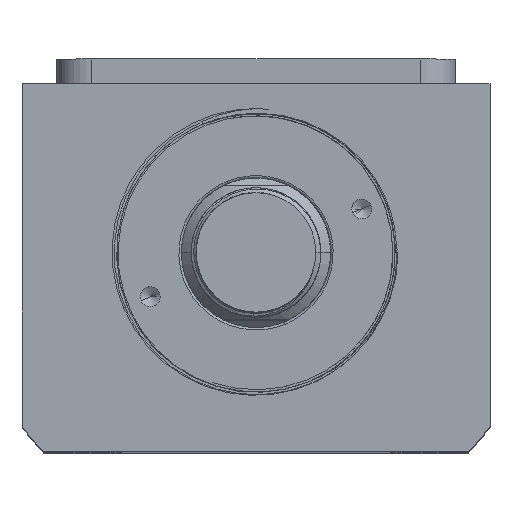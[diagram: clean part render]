
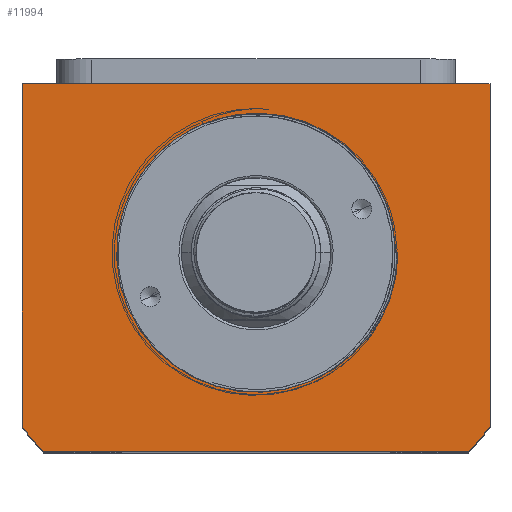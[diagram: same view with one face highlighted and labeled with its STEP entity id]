
A CAD part, top view. The second image highlights one B-rep face of the part: STEP entity #11994.
In plain terms, the highlighted planar face has unit normal (0, 0, 1).
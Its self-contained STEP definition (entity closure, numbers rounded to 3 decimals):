
#123 = CARTESIAN_POINT ( 'NONE',  ( 10.232, -26.064, 60. ) ) ;
#287 = DIRECTION ( 'NONE',  ( 0., 0., 1. ) ) ;
#660 = DIRECTION ( 'NONE',  ( -1., 0., 0. ) ) ;
#731 = CARTESIAN_POINT ( 'NONE',  ( 28., 0., 60. ) ) ;
#777 = EDGE_CURVE ( 'NONE', #11845, #11216, #11981, .T. ) ;
#1147 = ORIENTED_EDGE ( 'NONE', *, *, #14048, .F. ) ;
#1357 = ORIENTED_EDGE ( 'NONE', *, *, #13471, .T. ) ;
#1569 = DIRECTION ( 'NONE',  ( 1., 0., 0. ) ) ;
#1833 = VECTOR ( 'NONE', #4393, 1000. ) ;
#1990 = DIRECTION ( 'NONE',  ( 1., 0., 0. ) ) ;
#2219 = CIRCLE ( 'NONE', #12294, 58.5 ) ;
#2386 = AXIS2_PLACEMENT_3D ( 'NONE', #16555, #7686, #9284 ) ;
#2474 = CARTESIAN_POINT ( 'NONE',  ( 24.178, -14.712, 60. ) ) ;
#2493 = EDGE_CURVE ( 'NONE', #11162, #3084, #16900, .T. ) ;
#2685 = CARTESIAN_POINT ( 'NONE',  ( 11.542, -25.544, 60. ) ) ;
#2826 = ORIENTED_EDGE ( 'NONE', *, *, #2493, .T. ) ;
#2868 = EDGE_LOOP ( 'NONE', ( #1147, #9378, #12041 ) ) ;
#3084 = VERTEX_POINT ( 'NONE', #16233 ) ;
#3218 = DIRECTION ( 'NONE',  ( 0., 0., 1. ) ) ;
#3641 = CARTESIAN_POINT ( 'NONE',  ( 47., 34., 60. ) ) ;
#3761 = DIRECTION ( 'NONE',  ( 0., 1., 0. ) ) ;
#4136 = CARTESIAN_POINT ( 'NONE',  ( 12.831, -24.945, 60. ) ) ;
#4208 = CARTESIAN_POINT ( 'NONE',  ( 20.224, -19.631, 60. ) ) ;
#4279 = VERTEX_POINT ( 'NONE', #731 ) ;
#4393 = DIRECTION ( 'NONE',  ( 1., 0., 0. ) ) ;
#4417 = EDGE_CURVE ( 'NONE', #13926, #4279, #5196, .T. ) ;
#4691 = CARTESIAN_POINT ( 'NONE',  ( 0., 0., 60. ) ) ;
#5196 = CIRCLE ( 'NONE', #9619, 28. ) ;
#5589 = VECTOR ( 'NONE', #3761, 1000. ) ;
#5592 = CARTESIAN_POINT ( 'NONE',  ( 19.714, -20.129, 60. ) ) ;
#6837 = CARTESIAN_POINT ( 'NONE',  ( 28.485, -0.71, 60. ) ) ;
#6971 = CARTESIAN_POINT ( 'NONE',  ( 24.898, -13.504, 60. ) ) ;
#7038 = CARTESIAN_POINT ( 'NONE',  ( 26.163, -10.961, 60. ) ) ;
#7111 = CARTESIAN_POINT ( 'NONE',  ( 28.449, -1.419, 60. ) ) ;
#7180 = DIRECTION ( 'NONE',  ( 0., 0., -1. ) ) ;
#7181 = VECTOR ( 'NONE', #660, 1000. ) ;
#7196 = LINE ( 'NONE', #9100, #15416 ) ;
#7686 = DIRECTION ( 'NONE',  ( 0., 0., 1. ) ) ;
#8254 = ORIENTED_EDGE ( 'NONE', *, *, #16934, .T. ) ;
#8431 = LINE ( 'NONE', #10670, #13636 ) ;
#8562 = CARTESIAN_POINT ( 'NONE',  ( 18.129, -21.529, 60. ) ) ;
#8626 = CARTESIAN_POINT ( 'NONE',  ( 18.667, -21.077, 60. ) ) ;
#8661 = CARTESIAN_POINT ( 'NONE',  ( 28.495, 0., 60. ) ) ;
#8871 = FACE_BOUND ( 'NONE', #2868, .T. ) ;
#8911 = DIRECTION ( 'NONE',  ( 1., 0., 0. ) ) ;
#9100 = CARTESIAN_POINT ( 'NONE',  ( -47., 34., 60. ) ) ;
#9103 = CARTESIAN_POINT ( 'NONE',  ( -47., -34.832, 60. ) ) ;
#9284 = DIRECTION ( 'NONE',  ( 1., 0., 0. ) ) ;
#9378 = ORIENTED_EDGE ( 'NONE', *, *, #12487, .T. ) ;
#9406 = CARTESIAN_POINT ( 'NONE',  ( 0., 0., 60. ) ) ;
#9619 = AXIS2_PLACEMENT_3D ( 'NONE', #19203, #7180, #8911 ) ;
#9831 = CARTESIAN_POINT ( 'NONE',  ( 47., -34.832, 60. ) ) ;
#9847 = ORIENTED_EDGE ( 'NONE', *, *, #12781, .T. ) ;
#10015 = CARTESIAN_POINT ( 'NONE',  ( 16.467, -22.819, 60. ) ) ;
#10214 = CARTESIAN_POINT ( 'NONE',  ( 10.89, -25.816, 60. ) ) ;
#10589 = VERTEX_POINT ( 'NONE', #9103 ) ;
#10670 = CARTESIAN_POINT ( 'NONE',  ( -47., -34.832, 60. ) ) ;
#10722 = PLANE ( 'NONE',  #19285 ) ;
#11162 = VERTEX_POINT ( 'NONE', #9831 ) ;
#11178 = CARTESIAN_POINT ( 'NONE',  ( -47., 34., 60. ) ) ;
#11216 = VERTEX_POINT ( 'NONE', #19156 ) ;
#11340 = ORIENTED_EDGE ( 'NONE', *, *, #777, .T. ) ;
#11717 = CARTESIAN_POINT ( 'NONE',  ( 22.571, -17.007, 60. ) ) ;
#11845 = VERTEX_POINT ( 'NONE', #18203 ) ;
#11981 = LINE ( 'NONE', #13615, #1833 ) ;
#11994 = ADVANCED_FACE ( 'NONE', ( #8871, #17526 ), #10722, .T. ) ;
#12041 = ORIENTED_EDGE ( 'NONE', *, *, #4417, .T. ) ;
#12294 = AXIS2_PLACEMENT_3D ( 'NONE', #4691, #3218, #1569 ) ;
#12487 = EDGE_CURVE ( 'NONE', #14337, #13926, #13327, .T. ) ;
#12781 = EDGE_CURVE ( 'NONE', #11216, #11162, #2219, .T. ) ;
#12910 = ORIENTED_EDGE ( 'NONE', *, *, #18684, .T. ) ;
#12960 = CARTESIAN_POINT ( 'NONE',  ( 28.323, -2.832, 60. ) ) ;
#13113 = CIRCLE ( 'NONE', #2386, 58.5 ) ;
#13327 = B_SPLINE_CURVE_WITH_KNOTS ( 'NONE', 3,
 ( #14210, #6837, #7111, #12960, #15964, #16101, #17612, #17689, #7038, #6971, #2474, #11717, #19202, #4208, #5592, #8626, #8562, #10015, #17484, #19141, #4136, #2685, #10214, #18998 ),
 .UNSPECIFIED., .F., .F.,
 ( 4, 2, 2, 2, 2, 2, 2, 2, 2, 2, 2, 4 ),
 ( 0., 0.002, 0.004, 0.009, 0.013, 0.017, 0.021, 0.023, 0.026, 0.03, 0.032, 0.034 ),
 .UNSPECIFIED. ) ;
#13471 = EDGE_CURVE ( 'NONE', #3084, #16279, #7196, .T. ) ;
#13615 = CARTESIAN_POINT ( 'NONE',  ( 42.688, -40., 60. ) ) ;
#13636 = VECTOR ( 'NONE', #14851, 1000. ) ;
#13926 = VERTEX_POINT ( 'NONE', #123 ) ;
#14048 = EDGE_CURVE ( 'NONE', #14337, #4279, #14698, .T. ) ;
#14210 = CARTESIAN_POINT ( 'NONE',  ( 28.495, 0., 60. ) ) ;
#14337 = VERTEX_POINT ( 'NONE', #8661 ) ;
#14698 = LINE ( 'NONE', #16837, #7181 ) ;
#14851 = DIRECTION ( 'NONE',  ( 0., -1., 0. ) ) ;
#15018 = EDGE_LOOP ( 'NONE', ( #1357, #8254, #12910, #11340, #9847, #2826 ) ) ;
#15416 = VECTOR ( 'NONE', #16349, 1000. ) ;
#15964 = CARTESIAN_POINT ( 'NONE',  ( 28.233, -3.538, 60. ) ) ;
#16101 = CARTESIAN_POINT ( 'NONE',  ( 27.887, -5.628, 60. ) ) ;
#16233 = CARTESIAN_POINT ( 'NONE',  ( 47., 34., 60. ) ) ;
#16279 = VERTEX_POINT ( 'NONE', #11178 ) ;
#16349 = DIRECTION ( 'NONE',  ( -1., 0., 0. ) ) ;
#16555 = CARTESIAN_POINT ( 'NONE',  ( 0., 0., 60. ) ) ;
#16837 = CARTESIAN_POINT ( 'NONE',  ( 0., 0., 60. ) ) ;
#16900 = LINE ( 'NONE', #3641, #5589 ) ;
#16934 = EDGE_CURVE ( 'NONE', #16279, #10589, #8431, .T. ) ;
#17484 = CARTESIAN_POINT ( 'NONE',  ( 15.3, -23.593, 60. ) ) ;
#17526 = FACE_OUTER_BOUND ( 'NONE', #15018, .T. ) ;
#17612 = CARTESIAN_POINT ( 'NONE',  ( 27.555, -6.99, 60. ) ) ;
#17689 = CARTESIAN_POINT ( 'NONE',  ( 26.694, -9.657, 60. ) ) ;
#18203 = CARTESIAN_POINT ( 'NONE',  ( -42.688, -40., 60. ) ) ;
#18684 = EDGE_CURVE ( 'NONE', #10589, #11845, #13113, .T. ) ;
#18998 = CARTESIAN_POINT ( 'NONE',  ( 10.232, -26.064, 60. ) ) ;
#19141 = CARTESIAN_POINT ( 'NONE',  ( 13.459, -24.624, 60. ) ) ;
#19156 = CARTESIAN_POINT ( 'NONE',  ( 42.688, -40., 60. ) ) ;
#19202 = CARTESIAN_POINT ( 'NONE',  ( 21.684, -18.094, 60. ) ) ;
#19203 = CARTESIAN_POINT ( 'NONE',  ( 0., 0., 60. ) ) ;
#19285 = AXIS2_PLACEMENT_3D ( 'NONE', #9406, #287, #1990 ) ;
